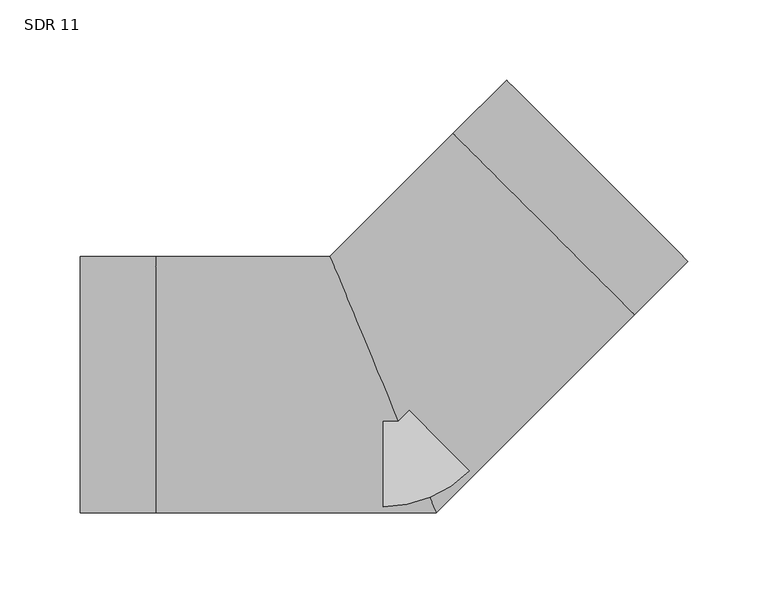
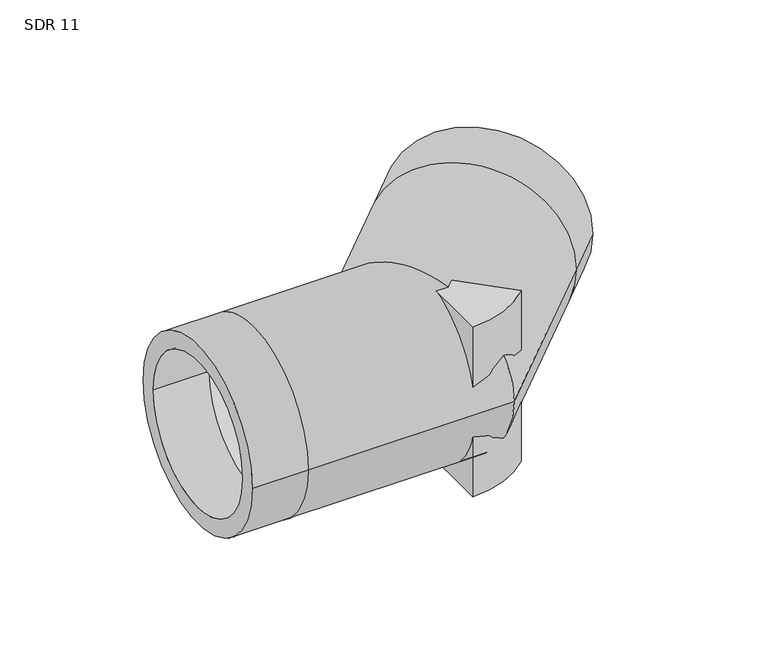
"""IFC4 building model written with IfcOpenShell, lengths in millimetres: pipe fitting geometry, Aquatherm - Elbow Blue BW Segmented : SDR 11."""

import ifcopenshell
import ifcopenshell.guid

model = None  # the IFC model being written
_history = None  # IfcOwnerHistory: only IFC2X3 demands one
_inside = {}  # id of a spatial element -> (the spatial element, [elements in it])
_under = {}  # id of a project, library or spatial element -> (it, [spatial elements below it])
_declared = {}  # id of a project -> (the project, [libraries it declares])
_typed = {}  # id of a type object -> (the type object, [elements of that type])
_made_of = {}  # id of a material, layer set ... -> (it, [elements and type objects made of it])


def new_model(schema):
    """Start an empty IFC model of exactly this schema.

    Asked for "IFC4X3", IfcOpenShell would pick the latest addendum, in which some entities
    have other attributes; the version numbers below select the first issue.
    IFC2X3 requires an IfcOwnerHistory on every rooted entity: one is made here for all.
    """
    global model, _history
    if schema == "IFC4X3":
        model = ifcopenshell.file(schema_version=(4, 3, 0, 0))
    else:
        model = ifcopenshell.file(schema=schema)
    _inside.clear()
    _under.clear()
    _declared.clear()
    _typed.clear()
    _made_of.clear()
    _history = None
    if model.schema == "IFC2X3":
        org = make("IfcOrganization", Name="unknown")
        user = make(
            "IfcPersonAndOrganization",
            ThePerson=make("IfcPerson", FamilyName="unknown"),
            TheOrganization=org,
        )
        app = make(
            "IfcApplication",
            ApplicationDeveloper=org,
            Version="unknown",
            ApplicationFullName="unknown",
            ApplicationIdentifier="unknown",
        )
        _history = make(
            "IfcOwnerHistory",
            OwningUser=user,
            OwningApplication=app,
            ChangeAction="ADDED",
            CreationDate=0,
        )
    return model


def make(cls, **values):
    """One entity of the class cls with the attributes given. An attribute that is None is left unset."""
    return model.create_entity(
        cls, **{name: value for name, value in values.items() if value is not None}
    )


def rooted(cls, **values):
    """An entity with a GlobalId (a new one), such as an element, a storey or a relation."""
    return make(cls, GlobalId=ifcopenshell.guid.new(), OwnerHistory=_history, **values)


def si_unit(unit_type, name, prefix=None):
    """IfcSIUnit, for example si_unit("LENGTHUNIT", "METRE", prefix="MILLI")."""
    return make("IfcSIUnit", UnitType=unit_type, Prefix=prefix, Name=name)


def assignment(units):
    """IfcUnitAssignment: the units of a project."""
    return None if units is None else make("IfcUnitAssignment", Units=units)


def point(xyz):
    """IfcCartesianPoint."""
    return None if xyz is None else make("IfcCartesianPoint", Coordinates=xyz)


def direction(xyz):
    """IfcDirection."""
    return None if xyz is None else make("IfcDirection", DirectionRatios=xyz)


def frame(location, z_axis=None, x_axis=None):
    """IfcAxis2Placement3D, a coordinate frame: its origin and axes. An axis left out is left unset."""
    return make(
        "IfcAxis2Placement3D",
        Location=point(location),
        Axis=direction(z_axis),
        RefDirection=direction(x_axis),
    )


def frame_2d(location, x_axis=None):
    """IfcAxis2Placement2D, a coordinate frame in the plane: its origin and x axis."""
    return make(
        "IfcAxis2Placement2D", Location=point(location), RefDirection=direction(x_axis)
    )


def origin():
    """The frame at (0, 0, 0) with its axes left unset."""
    return frame((0.0, 0.0, 0.0))


def origin_with_axes():
    """The frame at (0, 0, 0) with the z axis (0, 0, 1) and the x axis (1, 0, 0) written out."""
    return frame((0.0, 0.0, 0.0), z_axis=(0.0, 0.0, 1.0), x_axis=(1.0, 0.0, 0.0))


def origin_2d():
    """The frame at (0, 0) in the plane with its x axis left unset."""
    return frame_2d((0.0, 0.0))


def place(relative_to, where):
    """IfcLocalPlacement: puts the frame where relative to a parent placement (None: the world)."""
    return make(
        "IfcLocalPlacement", PlacementRelTo=relative_to, RelativePlacement=where
    )


def context(
    kind, dimensions, precision=None, world=None, true_north=None, identifier=None
):
    """IfcGeometricRepresentationContext, for example the 3D "Model" context."""
    return make(
        "IfcGeometricRepresentationContext",
        ContextIdentifier=identifier,
        ContextType=kind,
        CoordinateSpaceDimension=dimensions,
        Precision=precision,
        WorldCoordinateSystem=world,
        TrueNorth=true_north,
    )


def project(units=None, contexts=None):
    """IfcProject with its units and contexts."""
    return rooted(
        "IfcProject",
        Name="project",
        RepresentationContexts=contexts,
        UnitsInContext=assignment(units),
    )


def spatial(cls, under=None, at=None, **own):
    """A site, building, storey or space (cls), placed at a placement, below another one or the project."""
    s = rooted(cls, ObjectPlacement=at, **own)
    if under is not None:
        _under.setdefault(under.id(), (under, []))[1].append(s)
    return s


def polyline(points):
    """IfcPolyline through the points."""
    return make("IfcPolyline", Points=[point(p) for p in points])


def circle_curve(where, radius):
    """IfcCircle in the frame where."""
    return make("IfcCircle", Position=where, Radius=radius)


def ellipse_curve(where, semi_axis1, semi_axis2):
    """IfcEllipse in the frame where."""
    return make(
        "IfcEllipse", Position=where, SemiAxis1=semi_axis1, SemiAxis2=semi_axis2
    )


def trimmed(basis, trim1, trim2, sense, master):
    """IfcTrimmedCurve: the piece of a basis curve between two trims."""
    return make(
        "IfcTrimmedCurve",
        BasisCurve=basis,
        Trim1=trim1,
        Trim2=trim2,
        SenseAgreement=sense,
        MasterRepresentation=master,
    )


def segment(curve, same_sense, transition):
    """IfcCompositeCurveSegment."""
    return make(
        "IfcCompositeCurveSegment",
        Transition=transition,
        SameSense=same_sense,
        ParentCurve=curve,
    )


def composite_curve(segments, self_intersect=None):
    """IfcCompositeCurve: segments joined end to end."""
    return make("IfcCompositeCurve", Segments=segments, SelfIntersect=self_intersect)


def outline(outer, holes=None, kind="AREA"):
    """IfcArbitraryClosedProfileDef: a profile drawn as a closed curve; with holes, ...WithVoids."""
    if holes is None:
        return make("IfcArbitraryClosedProfileDef", ProfileType=kind, OuterCurve=outer)
    return make(
        "IfcArbitraryProfileDefWithVoids",
        ProfileType=kind,
        OuterCurve=outer,
        InnerCurves=holes,
    )


def extrude(swept, where, along, depth):
    """IfcExtrudedAreaSolid: the profile swept, set in the frame where, extruded along a direction by depth."""
    return make(
        "IfcExtrudedAreaSolid",
        SweptArea=swept,
        Position=where,
        ExtrudedDirection=direction(along),
        Depth=depth,
    )


def shape(context_of_items, identifier, shape_type, items):
    """IfcShapeRepresentation: the items that make up one representation, for example the "Body"."""
    return make(
        "IfcShapeRepresentation",
        ContextOfItems=context_of_items,
        RepresentationIdentifier=identifier,
        RepresentationType=shape_type,
        Items=items,
    )


def source(mapping_origin, context_of_items, identifier, shape_type, items):
    """IfcRepresentationMap: a shape defined once, which mapped items show again and again."""
    return make(
        "IfcRepresentationMap",
        MappingOrigin=mapping_origin,
        MappedRepresentation=shape(context_of_items, identifier, shape_type, items),
    )


def transform(
    local_origin,
    x_axis=None,
    y_axis=None,
    z_axis=None,
    scale=None,
    scale2=None,
    scale3=None,
    uniform=True,
):
    """IfcCartesianTransformationOperator3D, or its non-uniform kind. x_axis, y_axis, z_axis: its Axis1, 2, 3."""
    if uniform:
        return make(
            "IfcCartesianTransformationOperator3D",
            Axis1=direction(x_axis),
            Axis2=direction(y_axis),
            LocalOrigin=point(local_origin),
            Scale=scale,
            Axis3=direction(z_axis),
        )
    return make(
        "IfcCartesianTransformationOperator3DnonUniform",
        Axis1=direction(x_axis),
        Axis2=direction(y_axis),
        LocalOrigin=point(local_origin),
        Scale=scale,
        Axis3=direction(z_axis),
        Scale2=scale2,
        Scale3=scale3,
    )


def mapped(mapping_source, mapping_target):
    """IfcMappedItem: shows the shape of a source again, moved by a transform."""
    return make(
        "IfcMappedItem", MappingSource=mapping_source, MappingTarget=mapping_target
    )


def made_of(thing, what):
    """Note that an element or type object is made of a material, layer set ...; save() writes the relation."""
    if what is not None:
        _made_of.setdefault(what.id(), (what, []))[1].append(thing)
    return thing


def element(
    cls,
    number,
    at=None,
    inside=None,
    cuts=None,
    type_object=None,
    material=None,
    context=None,
    identifier="Body",
    shape_type=None,
    held_by="IfcProductDefinitionShape",
    body=None,
    shapes=None,
    **own,
):
    """One element of the class cls, such as IfcWall. Its Tag is "e" and its number.

    at: its placement. inside: the storey or other place that contains it. cuts: it is an
    opening in that element (IfcRelVoidsElement). A single representation is given by context,
    identifier, shape_type and body (its items); several are given by shapes. held_by: the class
    of the entity that holds the representations. save() writes the other relations.
    """
    e = rooted(cls, Tag="e%d" % number, ObjectPlacement=at, **own)
    if body is not None:
        shapes = [shape(context, identifier, shape_type, body)]
    if shapes is not None:
        e.Representation = make(held_by, Representations=shapes)
    if inside is not None:
        _inside.setdefault(inside.id(), (inside, []))[1].append(e)
    if cuts is not None:
        rooted(
            "IfcRelVoidsElement", RelatingBuildingElement=cuts, RelatedOpeningElement=e
        )
    if type_object is not None:
        _typed.setdefault(type_object.id(), (type_object, []))[1].append(e)
    return made_of(e, material)


def aggregate(whole, parts):
    """IfcRelAggregates: a whole, such as a stair, and the parts it consists of."""
    return rooted("IfcRelAggregates", RelatingObject=whole, RelatedObjects=parts)


def save(model, path):
    """Write the relations noted so far, then the file.

    IfcRelAggregates (storeys below a building ...), IfcRelContainedInSpatialStructure (elements
    in a storey), IfcRelDefinesByType, IfcRelAssociatesMaterial and IfcRelDeclares: one each for
    every whole, place, type object, material and project.
    """
    for whole, parts in _under.values():
        aggregate(whole, parts)
    for where, things in _inside.values():
        rooted(
            "IfcRelContainedInSpatialStructure",
            RelatedElements=things,
            RelatingStructure=where,
        )
    for kind, things in _typed.values():
        rooted("IfcRelDefinesByType", RelatedObjects=things, RelatingType=kind)
    for what, things in _made_of.values():
        rooted("IfcRelAssociatesMaterial", RelatedObjects=things, RelatingMaterial=what)
    for by, libraries in _declared.values():
        rooted("IfcRelDeclares", RelatingContext=by, RelatedDefinitions=libraries)
    model.write(path)


def plane_surface(at):
    """IfcPlane: the flat surface through the origin of the frame at, square to its z axis."""
    return make("IfcPlane", Position=at)


def cylinder_surface(at, radius):
    """IfcCylindricalSurface: all points at the distance radius from the z axis of the frame at."""
    return make("IfcCylindricalSurface", Position=at, Radius=radius)


def revolved_surface(curve, axis_point, axis_direction):
    """IfcSurfaceOfRevolution: the curve turned about the line through axis_point along axis_direction."""
    return make(
        "IfcSurfaceOfRevolution",
        SweptCurve=make("IfcArbitraryOpenProfileDef", ProfileType="CURVE", Curve=curve),
        AxisPosition=make("IfcAxis1Placement", Location=point(axis_point), Axis=direction(axis_direction)),
    )


def advanced_brep(points, edges, surfaces, faces):
    """IfcAdvancedBrep: a solid bounded by faces that lie on surfaces and meet in shared edges.

    An edge is (start, end): straight between two places in points (the first is 0);
    or (start, end, curve); or (start, end, curve, False) where it runs against its curve.
    A face is (place in surfaces, loops), or (place, loops, False) where it looks against
    its surface's normal. A loop lists edges by number (the first is 1), with a minus sign
    where the edge is run from its end to its start. The first loop is the outer one.
    """
    corners = [point(p) for p in points]
    vertices = [make("IfcVertexPoint", VertexGeometry=c) for c in corners]
    made = []
    for start, end, *more in edges:
        made.append(
            make(
                "IfcEdgeCurve",
                EdgeStart=vertices[start],
                EdgeEnd=vertices[end],
                EdgeGeometry=more[0] if more else make("IfcPolyline", Points=[corners[start], corners[end]]),
                SameSense=more[1] if len(more) > 1 else True,
            )
        )
    hull = []
    for where, loops, *sense in faces:
        bounds = []
        for j, loop in enumerate(loops):
            ring = [make("IfcOrientedEdge", EdgeElement=made[abs(k) - 1], Orientation=k > 0) for k in loop]
            bounds.append(
                make(
                    "IfcFaceOuterBound" if j == 0 else "IfcFaceBound",
                    Bound=make("IfcEdgeLoop", EdgeList=ring),
                    Orientation=True,
                )
            )
        hull.append(make("IfcAdvancedFace", Bounds=bounds, FaceSurface=surfaces[where], SameSense=sense[0] if sense else True))
    return make("IfcAdvancedBrep", Outer=make("IfcClosedShell", CfsFaces=hull))


def sdr_11_5d510339(model_context):
    return source(origin(), model_context, "Body", "SolidModel", [
        extrude(outline(composite_curve([segment(polyline([(0.0, -76.2), (0.0, 0.0), (53.8815367, -53.8815367)]), True, "CONTINUOUS"), segment(trimmed(circle_curve(origin_2d(), 76.2), [point((53.8815367, -53.8815367))], [point((0.0, -76.2))], False, "CARTESIAN"), True, "CONTINUOUS")], self_intersect=False)), frame((0.0, 0.0, -76.2), z_axis=(0.0, 0.0, 1.0), x_axis=(1.0, 0.0, 0.0)), (0.0, 0.0, 1.0), 76.2),
        extrude(outline(composite_curve([segment(trimmed(circle_curve(origin_2d(), 76.2), [point((53.8815367, -53.8815367))], [point((0.0, -76.2))], False, "CARTESIAN"), True, "CONTINUOUS"), segment(polyline([(0.0, -76.2), (0.0, 0.0), (53.8815367, -53.8815367)]), True, "CONTINUOUS")], self_intersect=False)), origin_with_axes(), (0.0, 0.0, 1.0), 76.2),
        advanced_brep(
        [(-188.976, -80.01, 0.0), (-188.976, 80.01, 0.0), (-188.976, -65.4627273, 0.0), (-188.976, 65.4627273, 0.0), (190.2018246, 77.0505975, 0.0), (77.0505975, 190.2018246, 0.0), (179.9153495, 87.3370727, 0.0), (87.3370727, 179.9153495, 0.0), (-141.732, -80.01, 0.0), (-141.732, 80.01, 0.0), (-141.732, -65.4627273, 0.0), (-141.732, 65.4627273, 0.0), (33.1412271, -80.01, 0.0), (-33.1412271, 80.01, 0.0), (27.1155495, -65.4627273, 0.0), (-27.1155495, 65.4627273, 0.0), (156.7952719, 43.6440447, 0.0), (43.6440447, 156.7952719, 0.0), (146.5087967, 53.9305199, 0.0), (53.9305199, 146.5087967, 0.0)],
        [
            (0, 1, circle_curve(frame((-188.976, 0.0, 0.0), z_axis=(-1.0, 0.0, 0.0), x_axis=(0.0, 1.0, 0.0)), 80.01)),
            (1, 0, circle_curve(frame((-188.976, 0.0, 0.0), z_axis=(-1.0, 0.0, 0.0), x_axis=(0.0, 1.0, 0.0)), 80.01)),
            (2, 3, circle_curve(frame((-188.976, 0.0, 0.0), z_axis=(1.0, 0.0, 0.0), x_axis=(0.0, 1.0, 0.0)), 65.4627273)),
            (3, 2, circle_curve(frame((-188.976, 0.0, 0.0), z_axis=(1.0, 0.0, 0.0), x_axis=(0.0, 1.0, 0.0)), 65.4627273)),
            (4, 5, circle_curve(frame((133.6262111, 133.6262111, 0.0), z_axis=(0.7071067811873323, 0.7071067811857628, 0.0), x_axis=(-0.7071067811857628, 0.7071067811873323, 0.0)), 80.01)),
            (5, 4, circle_curve(frame((133.6262111, 133.6262111, 0.0), z_axis=(0.7071067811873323, 0.7071067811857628, 0.0), x_axis=(-0.7071067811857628, 0.7071067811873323, 0.0)), 80.01)),
            (6, 7, circle_curve(frame((133.6262111, 133.6262111, 0.0), z_axis=(-0.7071067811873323, -0.7071067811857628, 0.0), x_axis=(-0.7071067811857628, 0.7071067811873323, 0.0)), 65.4627273)),
            (7, 6, circle_curve(frame((133.6262111, 133.6262111, 0.0), z_axis=(-0.7071067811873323, -0.7071067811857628, 0.0), x_axis=(-0.7071067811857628, 0.7071067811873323, 0.0)), 65.4627273)),
            (0, 8),
            (8, 9, circle_curve(frame((-141.732, 0.0, 0.0), z_axis=(-1.0, 0.0, 0.0), x_axis=(0.0, 1.0, 0.0)), 80.01)),
            (9, 1),
            (9, 8, circle_curve(frame((-141.732, 0.0, 0.0), z_axis=(-1.0, 0.0, 0.0), x_axis=(0.0, 1.0, 0.0)), 80.01)),
            (2, 10),
            (10, 11, circle_curve(frame((-141.732, 0.0, 0.0), z_axis=(1.0, 0.0, 0.0), x_axis=(0.0, 1.0, 0.0)), 65.4627273)),
            (11, 3),
            (11, 10, circle_curve(frame((-141.732, 0.0, 0.0), z_axis=(1.0, 0.0, 0.0), x_axis=(0.0, 1.0, 0.0)), 65.4627273)),
            (8, 12),
            (12, 13, ellipse_curve(frame((0.0, 0.0, 0.0), z_axis=(-0.923879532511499, -0.3826834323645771, 0.0), x_axis=(-0.38268343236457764, 0.9238795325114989, 0.0)), 86.6021999, 80.01)),
            (13, 9),
            (13, 12, ellipse_curve(frame((0.0, 0.0, 0.0), z_axis=(-0.923879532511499, -0.3826834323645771, 0.0), x_axis=(-0.38268343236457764, 0.9238795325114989, 0.0)), 86.6021999, 80.01)),
            (10, 14),
            (14, 15, ellipse_curve(frame((0.0, 0.0, 0.0), z_axis=(0.923879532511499, 0.3826834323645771, 0.0), x_axis=(0.38268343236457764, -0.9238795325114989, 0.0)), 70.8563454, 65.4627273)),
            (15, 11),
            (15, 14, ellipse_curve(frame((0.0, 0.0, 0.0), z_axis=(0.923879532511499, 0.3826834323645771, 0.0), x_axis=(0.38268343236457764, -0.9238795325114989, 0.0)), 70.8563454, 65.4627273)),
            (12, 16),
            (16, 17, circle_curve(frame((100.2196583, 100.2196583, 0.0), z_axis=(-0.707106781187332, -0.7071067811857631, 0.0), x_axis=(-0.7071067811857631, 0.707106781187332, 0.0)), 80.01)),
            (17, 13),
            (17, 16, circle_curve(frame((100.2196583, 100.2196583, 0.0), z_axis=(-0.707106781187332, -0.7071067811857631, 0.0), x_axis=(-0.7071067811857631, 0.707106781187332, 0.0)), 80.01)),
            (14, 18),
            (18, 19, circle_curve(frame((100.2196583, 100.2196583, 0.0), z_axis=(0.707106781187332, 0.7071067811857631, 0.0), x_axis=(-0.7071067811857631, 0.707106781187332, 0.0)), 65.4627273)),
            (19, 15),
            (19, 18, circle_curve(frame((100.2196583, 100.2196583, 0.0), z_axis=(0.707106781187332, 0.7071067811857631, 0.0), x_axis=(-0.7071067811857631, 0.707106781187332, 0.0)), 65.4627273)),
            (16, 4),
            (5, 17),
            (18, 6),
            (7, 19),
        ],
        [
            plane_surface(frame((-188.976, 0.0, 0.0), z_axis=(-1.0, 0.0, 0.0), x_axis=(0.0, 0.0, 1.0))),
            plane_surface(frame((133.6262111, 133.6262111, 0.0), z_axis=(0.7071067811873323, 0.7071067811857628, 0.0), x_axis=(0.0, 0.0, 1.0))),
            cylinder_surface(frame((-188.976, 0.0, 0.0), z_axis=(-1.0, 0.0, 0.0), x_axis=(0.0, 1.0, 0.0)), 80.01),
            revolved_surface(polyline([(-141.732, 65.4627273, 0.0), (-188.976, 65.4627273, 0.0)]), (-188.976, 0.0, 0.0), (1.0, 0.0, 0.0)),
            cylinder_surface(frame((-141.732, 0.0, 0.0), z_axis=(-1.0, 0.0, 0.0), x_axis=(0.0, 1.0, 0.0)), 80.01),
            revolved_surface(polyline([(27.115549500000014, 65.4627273, 0.0), (-141.732, 65.4627273, 0.0)]), (-141.732, 0.0, 0.0), (1.0, 0.0, 0.0)),
            cylinder_surface(frame((0.0, 0.0, 0.0), z_axis=(-0.707106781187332, -0.7071067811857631, 0.0), x_axis=(-0.7071067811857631, 0.707106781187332, 0.0)), 80.01),
            revolved_surface(polyline([(53.93051991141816, 146.50879668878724, 0.0), (-65.46272728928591, 27.115549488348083, 0.0)]), (0.0, 0.0, 0.0), (0.707106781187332, 0.7071067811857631, 0.0)),
            cylinder_surface(frame((100.2196583, 100.2196583, 0.0), z_axis=(-0.7071067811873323, -0.7071067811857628, 0.0), x_axis=(-0.7071067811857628, 0.7071067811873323, 0.0)), 80.01),
            revolved_surface(polyline([(87.33707271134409, 179.91534948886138, 0.0), (53.93051991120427, 146.5087966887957, 0.0)]), (100.2196583, 100.2196583, 0.0), (0.7071067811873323, 0.7071067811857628, 0.0)),
        ],
        [
            (0, [[1, 2], [3, 4]]),
            (1, [[5, 6], [7, 8]]),
            (2, [[-1, 9, 10, 11]]),
            (2, [[-2, -11, 12, -9]]),
            (3, [[-3, 13, 14, 15]]),
            (3, [[-4, -15, 16, -13]]),
            (4, [[-10, 17, 18, 19]]),
            (4, [[-12, -19, 20, -17]]),
            (5, [[-14, 21, 22, 23]]),
            (5, [[-16, -23, 24, -21]]),
            (6, [[-18, 25, 26, 27]]),
            (6, [[-20, -27, 28, -25]]),
            (7, [[-22, 29, 30, 31]]),
            (7, [[-24, -31, 32, -29]]),
            (8, [[-26, 33, -6, 34]]),
            (8, [[-28, -34, -5, -33]]),
            (9, [[-30, 35, -8, 36]]),
            (9, [[-32, -36, -7, -35]]),
        ],
    ),
    ])


if __name__ == "__main__":
    model = new_model("IFC4")
    model_context = context("Model", 3, world=origin())
    ifc_project = project(units=[si_unit("LENGTHUNIT", "METRE", prefix="MILLI")], contexts=[model_context])
    site = spatial("IfcSite", under=ifc_project)
    building = spatial("IfcBuilding", under=site)
    placement = place(None, origin())
    sdr_11_shape = sdr_11_5d510339(model_context)
    element("IfcPipeFitting", 1, ObjectType="Aquatherm - Elbow Blue BW Segmented : SDR 11", at=placement, inside=building, context=model_context, shape_type="MappedRepresentation", body=[
        mapped(sdr_11_shape, transform((0.0, 0.0, 0.0), x_axis=(1.0, 0.0, 0.0), y_axis=(0.0, 1.0, 0.0), z_axis=(0.0, 0.0, 1.0))),
    ])
    save(model, "model.ifc")
